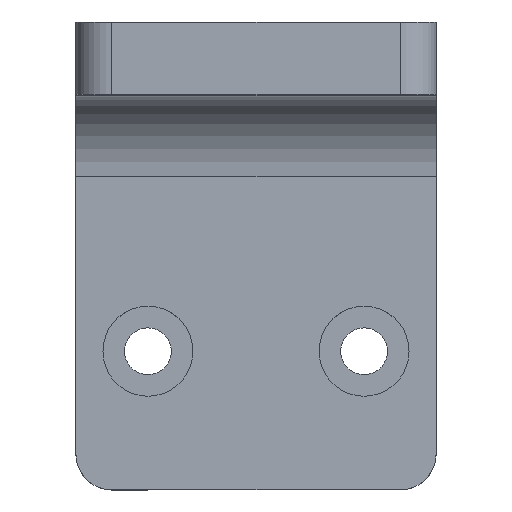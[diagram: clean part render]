
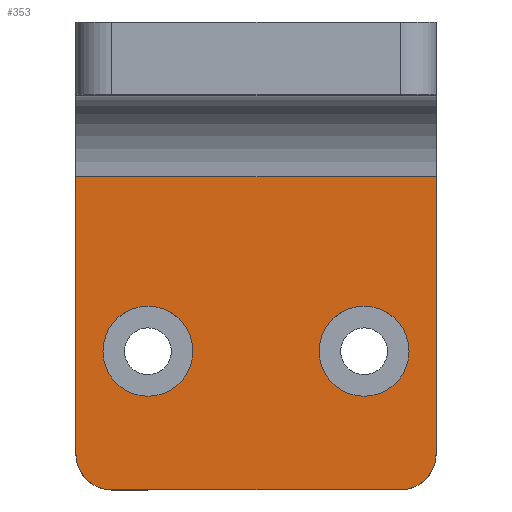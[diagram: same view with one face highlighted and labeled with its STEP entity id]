
A CAD part, top view. The second image highlights one B-rep face of the part: STEP entity #353.
In plain terms, the highlighted planar face has unit normal (0, 0, 1).
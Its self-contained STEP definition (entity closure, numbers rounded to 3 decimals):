
#19=FACE_BOUND('',#70,.T.);
#20=FACE_BOUND('',#71,.T.);
#45=FACE_OUTER_BOUND('',#69,.T.);
#69=EDGE_LOOP('',(#301,#302,#303,#304,#305,#306));
#70=EDGE_LOOP('',(#307));
#71=EDGE_LOOP('',(#308));
#80=CIRCLE('',#378,2.);
#82=CIRCLE('',#381,2.);
#95=CIRCLE('',#406,2.5);
#96=CIRCLE('',#407,2.5);
#101=LINE('',#539,#129);
#107=LINE('',#561,#135);
#119=LINE('',#598,#147);
#120=LINE('',#610,#148);
#129=VECTOR('',#425,10.);
#135=VECTOR('',#447,10.);
#147=VECTOR('',#489,10.);
#148=VECTOR('',#504,1000.);
#159=VERTEX_POINT('',#536);
#160=VERTEX_POINT('',#538);
#163=VERTEX_POINT('',#545);
#164=VERTEX_POINT('',#547);
#166=VERTEX_POINT('',#553);
#168=VERTEX_POINT('',#559);
#183=VERTEX_POINT('',#611);
#184=VERTEX_POINT('',#613);
#191=EDGE_CURVE('',#159,#160,#101,.T.);
#195=EDGE_CURVE('',#164,#163,#80,.T.);
#198=EDGE_CURVE('',#166,#160,#82,.T.);
#202=EDGE_CURVE('',#168,#159,#107,.T.);
#221=EDGE_CURVE('',#164,#168,#119,.T.);
#226=EDGE_CURVE('',#166,#163,#120,.T.);
#227=EDGE_CURVE('',#183,#183,#95,.T.);
#228=EDGE_CURVE('',#184,#184,#96,.T.);
#301=ORIENTED_EDGE('',*,*,#202,.F.);
#302=ORIENTED_EDGE('',*,*,#221,.F.);
#303=ORIENTED_EDGE('',*,*,#195,.T.);
#304=ORIENTED_EDGE('',*,*,#226,.F.);
#305=ORIENTED_EDGE('',*,*,#198,.T.);
#306=ORIENTED_EDGE('',*,*,#191,.F.);
#307=ORIENTED_EDGE('',*,*,#227,.F.);
#308=ORIENTED_EDGE('',*,*,#228,.F.);
#337=PLANE('',#405);
#353=ADVANCED_FACE('',(#45,#19,#20),#337,.T.);
#378=AXIS2_PLACEMENT_3D('',#548,#432,#433);
#381=AXIS2_PLACEMENT_3D('',#554,#439,#440);
#405=AXIS2_PLACEMENT_3D('',#609,#502,#503);
#406=AXIS2_PLACEMENT_3D('',#612,#505,#506);
#407=AXIS2_PLACEMENT_3D('',#614,#507,#508);
#425=DIRECTION('',(0.,-1.,0.));
#432=DIRECTION('center_axis',(0.,0.,
1.));
#433=DIRECTION('ref_axis',(0.,-1.,0.));
#439=DIRECTION('center_axis',(0.,0.,
1.));
#440=DIRECTION('ref_axis',(0.,-1.,0.));
#447=DIRECTION('',(1.,0.,0.));
#489=DIRECTION('',(0.,1.,0.));
#502=DIRECTION('center_axis',(0.,0.,
1.));
#503=DIRECTION('ref_axis',(0.,-1.,0.));
#504=DIRECTION('',(-1.,0.,0.));
#505=DIRECTION('center_axis',(0.,0.,
1.));
#506=DIRECTION('ref_axis',(0.,-1.,0.));
#507=DIRECTION('center_axis',(0.,0.,
1.));
#508=DIRECTION('ref_axis',(0.,-1.,0.));
#536=CARTESIAN_POINT('',(10.,25.5,61.1));
#538=CARTESIAN_POINT('',(10.,10.1,61.1));
#539=CARTESIAN_POINT('',(10.,17.3,61.1));
#545=CARTESIAN_POINT('',(-8.,8.1,61.1));
#547=CARTESIAN_POINT('',(-10.,10.1,61.1));
#548=CARTESIAN_POINT('Origin',(-8.,10.1,61.1));
#553=CARTESIAN_POINT('',(8.,8.1,61.1));
#554=CARTESIAN_POINT('Origin',(8.,10.1,61.1));
#559=CARTESIAN_POINT('',(-10.,25.5,61.1));
#561=CARTESIAN_POINT('',(0.,25.5,61.1));
#598=CARTESIAN_POINT('',(-10.,17.3,61.1));
#609=CARTESIAN_POINT('Origin',(0.,15.3,61.1));
#610=CARTESIAN_POINT('',(0.,8.1,61.1));
#611=CARTESIAN_POINT('',(-6.,18.3,61.1));
#612=CARTESIAN_POINT('Origin',(-6.,15.8,61.1));
#613=CARTESIAN_POINT('',(6.,18.3,61.1));
#614=CARTESIAN_POINT('Origin',(6.,15.8,61.1));
